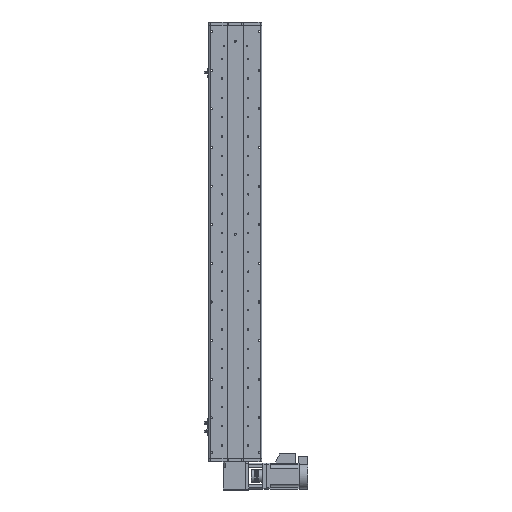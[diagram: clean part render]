
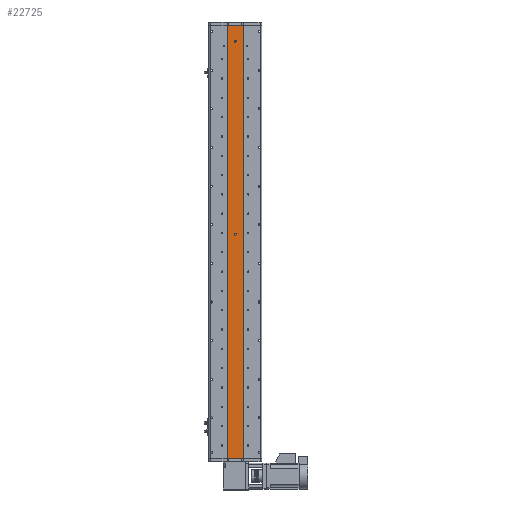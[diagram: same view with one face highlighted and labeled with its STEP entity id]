
A CAD part, front view. The second image highlights one B-rep face of the part: STEP entity #22725.
In plain terms, the highlighted planar face has unit normal (0, -1, 0).
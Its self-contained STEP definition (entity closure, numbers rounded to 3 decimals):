
#11 = CIRCLE ( 'NONE', #2297, 3. ) ;
#77 = DIRECTION ( 'NONE',  ( 0., -1., 0. ) ) ;
#841 = VERTEX_POINT ( 'NONE', #19432 ) ;
#1661 = ORIENTED_EDGE ( 'NONE', *, *, #3270, .F. ) ;
#1921 = VECTOR ( 'NONE', #13688, 1000. ) ;
#1991 = EDGE_CURVE ( 'NONE', #22827, #23456, #13556, .T. ) ;
#2297 = AXIS2_PLACEMENT_3D ( 'NONE', #18469, #18413, #18304 ) ;
#2465 = EDGE_CURVE ( 'NONE', #23456, #15617, #14730, .T. ) ;
#3270 = EDGE_CURVE ( 'NONE', #44406, #19596, #11, .T. ) ;
#3862 = LINE ( 'NONE', #7465, #23338 ) ;
#7429 = CARTESIAN_POINT ( 'NONE',  ( 0., 1., 626.5 ) ) ;
#7465 = CARTESIAN_POINT ( 'NONE',  ( 25., 1., 673.5 ) ) ;
#7865 = FACE_OUTER_BOUND ( 'NONE', #12216, .T. ) ;
#8710 = AXIS2_PLACEMENT_3D ( 'NONE', #23336, #77, #27235 ) ;
#9357 = CARTESIAN_POINT ( 'NONE',  ( 0., 1., 26.5 ) ) ;
#9685 = EDGE_CURVE ( 'NONE', #19596, #44406, #28153, .T. ) ;
#12216 = EDGE_LOOP ( 'NONE', ( #18756, #46664, #23014, #20029 ) ) ;
#13556 = LINE ( 'NONE', #48705, #1921 ) ;
#13688 = DIRECTION ( 'NONE',  ( 0., 0., -1. ) ) ;
#14730 = LINE ( 'NONE', #22434, #44401 ) ;
#15359 = LINE ( 'NONE', #48823, #45016 ) ;
#15556 = CARTESIAN_POINT ( 'NONE',  ( -25., 1., -673.5 ) ) ;
#15617 = VERTEX_POINT ( 'NONE', #20459 ) ;
#15968 = VERTEX_POINT ( 'NONE', #30732 ) ;
#16216 = EDGE_LOOP ( 'NONE', ( #16948, #43587 ) ) ;
#16691 = DIRECTION ( 'NONE',  ( 0., -1., 0. ) ) ;
#16948 = ORIENTED_EDGE ( 'NONE', *, *, #17851, .F. ) ;
#17182 = CARTESIAN_POINT ( 'NONE',  ( 0., 1., 623.5 ) ) ;
#17851 = EDGE_CURVE ( 'NONE', #15968, #22153, #36485, .T. ) ;
#17861 = DIRECTION ( 'NONE',  ( 0., 0., -1. ) ) ;
#18304 = DIRECTION ( 'NONE',  ( 0., 0., -1. ) ) ;
#18325 = PLANE ( 'NONE',  #23309 ) ;
#18413 = DIRECTION ( 'NONE',  ( 0., -1., 0. ) ) ;
#18469 = CARTESIAN_POINT ( 'NONE',  ( 0., 1., 23.5 ) ) ;
#18756 = ORIENTED_EDGE ( 'NONE', *, *, #2465, .T. ) ;
#19432 = CARTESIAN_POINT ( 'NONE',  ( 25., 1., 673.5 ) ) ;
#19596 = VERTEX_POINT ( 'NONE', #32761 ) ;
#20029 = ORIENTED_EDGE ( 'NONE', *, *, #1991, .T. ) ;
#20459 = CARTESIAN_POINT ( 'NONE',  ( 25., 1., -673.5 ) ) ;
#21043 = DIRECTION ( 'NONE',  ( 0., 0., -1. ) ) ;
#21657 = DIRECTION ( 'NONE',  ( 1., 0., 0. ) ) ;
#22153 = VERTEX_POINT ( 'NONE', #7429 ) ;
#22185 = DIRECTION ( 'NONE',  ( 0., 0., 1. ) ) ;
#22434 = CARTESIAN_POINT ( 'NONE',  ( 25., 1., -673.5 ) ) ;
#22725 = ADVANCED_FACE ( 'NONE', ( #36460, #46731, #7865 ), #18325, .F. ) ;
#22827 = VERTEX_POINT ( 'NONE', #30628 ) ;
#23014 = ORIENTED_EDGE ( 'NONE', *, *, #28078, .F. ) ;
#23309 = AXIS2_PLACEMENT_3D ( 'NONE', #37472, #45412, #22185 ) ;
#23336 = CARTESIAN_POINT ( 'NONE',  ( 0., 1., 623.5 ) ) ;
#23338 = VECTOR ( 'NONE', #38719, 1000. ) ;
#23456 = VERTEX_POINT ( 'NONE', #15556 ) ;
#26725 = AXIS2_PLACEMENT_3D ( 'NONE', #17182, #44247, #21043 ) ;
#26984 = EDGE_LOOP ( 'NONE', ( #48389, #1661 ) ) ;
#27235 = DIRECTION ( 'NONE',  ( 0., 0., -1. ) ) ;
#28078 = EDGE_CURVE ( 'NONE', #22827, #841, #3862, .T. ) ;
#28153 = CIRCLE ( 'NONE', #30555, 3. ) ;
#30555 = AXIS2_PLACEMENT_3D ( 'NONE', #39852, #16691, #43738 ) ;
#30628 = CARTESIAN_POINT ( 'NONE',  ( -25., 1., 673.5 ) ) ;
#30732 = CARTESIAN_POINT ( 'NONE',  ( 0., 1., 620.5 ) ) ;
#32761 = CARTESIAN_POINT ( 'NONE',  ( 0., 1., 20.5 ) ) ;
#36460 = FACE_BOUND ( 'NONE', #26984, .T. ) ;
#36485 = CIRCLE ( 'NONE', #26725, 3. ) ;
#37472 = CARTESIAN_POINT ( 'NONE',  ( 25., 1., 673.5 ) ) ;
#38719 = DIRECTION ( 'NONE',  ( 1., 0., 0. ) ) ;
#39852 = CARTESIAN_POINT ( 'NONE',  ( 0., 1., 23.5 ) ) ;
#42897 = EDGE_CURVE ( 'NONE', #841, #15617, #15359, .T. ) ;
#43587 = ORIENTED_EDGE ( 'NONE', *, *, #49350, .F. ) ;
#43738 = DIRECTION ( 'NONE',  ( 0., 0., -1. ) ) ;
#44044 = CIRCLE ( 'NONE', #8710, 3. ) ;
#44247 = DIRECTION ( 'NONE',  ( 0., -1., 0. ) ) ;
#44401 = VECTOR ( 'NONE', #21657, 1000. ) ;
#44406 = VERTEX_POINT ( 'NONE', #9357 ) ;
#45016 = VECTOR ( 'NONE', #17861, 1000. ) ;
#45412 = DIRECTION ( 'NONE',  ( 0., 1., 0. ) ) ;
#46664 = ORIENTED_EDGE ( 'NONE', *, *, #42897, .F. ) ;
#46731 = FACE_BOUND ( 'NONE', #16216, .T. ) ;
#48389 = ORIENTED_EDGE ( 'NONE', *, *, #9685, .F. ) ;
#48705 = CARTESIAN_POINT ( 'NONE',  ( -25., 1., 673.5 ) ) ;
#48823 = CARTESIAN_POINT ( 'NONE',  ( 25., 1., 673.5 ) ) ;
#49350 = EDGE_CURVE ( 'NONE', #22153, #15968, #44044, .T. ) ;
